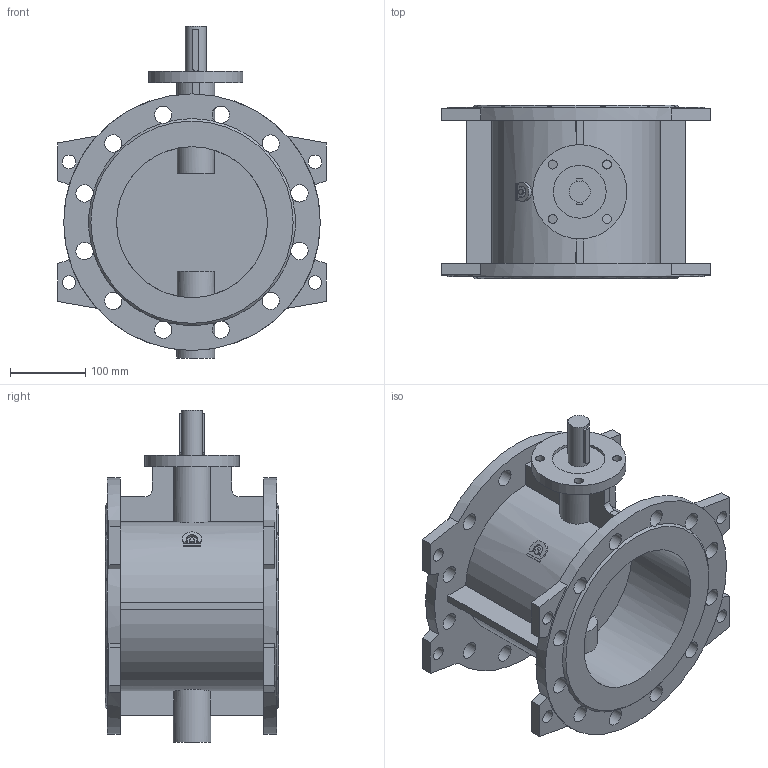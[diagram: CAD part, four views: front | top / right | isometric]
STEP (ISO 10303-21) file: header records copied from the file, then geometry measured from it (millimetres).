
FILE_DESCRIPTION(('STEP AP203'), '1');
FILE_NAME('Çàòâîð 023F.Z DN200 PN16 ïîä èñïîëíèòåëüíûé ìåõàíèçì', '', ('UNSPECIFIED'), ('UNSPECIFIED'), 'ASCON STEP Converter 1.6', 'ASCON Math Kernel', '');
FILE_SCHEMA(('CONFIG_CONTROL_DESIGN'));
Length unit declared in the file: millimetre
Bounding box: 356 x 230 x 440 mm (x, y, z)
Volume: 5417181.7 mm3; surface area: 729783 mm2
Topology: 1 solids, 1 shells, 150 faces, 477 edges, 318 vertices
Faces by surface type: plane 85, cylinder 63, cone 2
Full cylindrical faces by diameter (mm): 12 x4, 18 x8, 23 x24, 28 x1, 50 x1, 70 x1, 125 x1, 200 x2, 340 x2
Entity records: 8912 total; most frequent: CARTESIAN_POINT 3400, DIRECTION 878, ORIENTED_EDGE 860, EDGE_CURVE 430, AXIS2_PLACEMENT_3D 340, VERTEX_POINT 318, EDGE_LOOP 258, LINE 198
